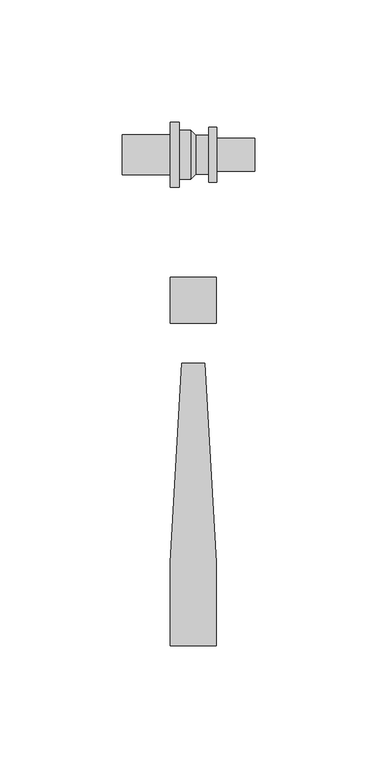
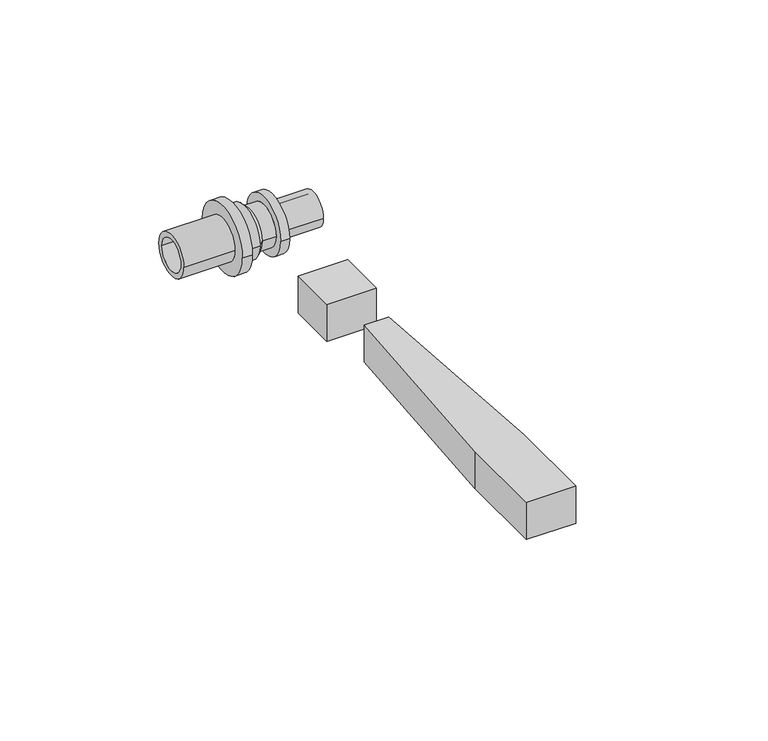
"""IFC4 building model written with IfcOpenShell, lengths in millimetres: pipe fitting geometry, RAUTITAN_Transition_LX : RTI LX Tr DN."""

from ifc_helpers import new_model, si_unit, frame, origin, origin_with_axes, place, context, project, spatial, polyline, circle_curve, outline, extrude, source, transform, mapped, element, save
from ifc_brep_helpers import plane_surface, cylinder_surface, revolved_surface, advanced_brep


def pipe_fitting_7819bb25(model_context):
    return source(origin(), model_context, "Body", "SolidModel", [
        advanced_brep(
        [(-29.05, 6.25, 0.0), (-29.05, -6.25, 0.0), (-0.65, -6.25, 0.0), (-0.65, 6.25, 0.0), (-1.0, 10.05, 0.0), (-1.0, -10.05, 0.0), (-5.75, -10.05, 0.0), (-5.75, 10.05, 0.0), (1.0, 8.05, 0.0), (1.0, -8.05, 0.0), (6.25, 8.05, 0.0), (6.25, -8.05, 0.0), (9.55, 11.25, 0.0), (9.55, -11.25, 0.0), (6.25, -11.25, 0.0), (6.25, 11.25, 0.0), (25.05, 6.75, 0.0), (25.05, -6.75, 0.0), (9.55, -6.75, 0.0), (9.55, 6.75, 0.0), (0.65, 4.95, 0.0), (0.65, -4.95, 0.0), (25.05, -4.95, 0.0), (25.05, 4.95, 0.0), (-5.75, 13.25, 0.0), (-5.75, -13.25, 0.0), (-9.55, 8.25, 0.0), (-9.55, -8.25, 0.0), (-29.05, -8.25, 0.0), (-29.05, 8.25, 0.0), (-9.55, -13.25, 0.0), (-9.55, 13.25, 0.0)],
        [
            (0, 1, circle_curve(frame((-29.05, 0.0, 0.0), z_axis=(-1.0, 0.0, 0.0), x_axis=(0.0, -1.0, 0.0)), 6.25)),
            (1, 2),
            (2, 3, circle_curve(frame((-0.65, 0.0, 0.0), z_axis=(1.0, 0.0, 0.0), x_axis=(0.0, -1.0, 0.0)), 6.25)),
            (3, 0),
            (4, 5, circle_curve(frame((-1.0, 0.0, 0.0), z_axis=(-1.0, 0.0, 0.0), x_axis=(0.0, -1.0, 0.0)), 10.05)),
            (5, 6),
            (6, 7, circle_curve(frame((-5.75, 0.0, 0.0), z_axis=(1.0, 0.0, 0.0), x_axis=(0.0, -1.0, 0.0)), 10.05)),
            (7, 4),
            (8, 9, circle_curve(frame((1.0, 0.0, 0.0), z_axis=(-1.0, 0.0, 0.0), x_axis=(0.0, -1.0, 0.0)), 8.05)),
            (9, 5),
            (4, 8),
            (10, 11, circle_curve(frame((6.25, 0.0, 0.0), z_axis=(-1.0, 0.0, 0.0), x_axis=(0.0, -1.0, 0.0)), 8.05)),
            (11, 9),
            (8, 10),
            (12, 13, circle_curve(frame((9.55, 0.0, 0.0), z_axis=(-1.0, 0.0, 0.0), x_axis=(0.0, -1.0, 0.0)), 11.25)),
            (13, 14),
            (14, 15, circle_curve(frame((6.25, 0.0, 0.0), z_axis=(1.0, 0.0, 0.0), x_axis=(0.0, -1.0, 0.0)), 11.25)),
            (15, 12),
            (16, 17, circle_curve(frame((25.05, 0.0, 0.0), z_axis=(-1.0, 0.0, 0.0), x_axis=(0.0, -1.0, 0.0)), 6.75)),
            (17, 18),
            (18, 19, circle_curve(frame((9.55, 0.0, 0.0), z_axis=(1.0, 0.0, 0.0), x_axis=(0.0, -1.0, 0.0)), 6.75)),
            (19, 16),
            (20, 21, circle_curve(frame((0.65, 0.0, 0.0), z_axis=(-1.0, 0.0, 0.0), x_axis=(0.0, -1.0, 0.0)), 4.95)),
            (21, 22),
            (22, 23, circle_curve(frame((25.05, 0.0, 0.0), z_axis=(1.0, 0.0, 0.0), x_axis=(0.0, -1.0, 0.0)), 4.95)),
            (23, 20),
            (2, 21),
            (20, 3),
            (1, 0, circle_curve(frame((-29.05, 0.0, 0.0), z_axis=(-1.0, 0.0, 0.0), x_axis=(0.0, 1.0, 0.0)), 6.25)),
            (3, 2, circle_curve(frame((-0.65, 0.0, 0.0), z_axis=(1.0, 0.0, 0.0), x_axis=(0.0, 1.0, 0.0)), 6.25)),
            (24, 25, circle_curve(frame((-5.75, 0.0, 0.0), z_axis=(1.0, 0.0, 0.0), x_axis=(0.0, 1.0, 0.0)), 13.25)),
            (25, 24, circle_curve(frame((-5.75, 0.0, 0.0), z_axis=(1.0, 0.0, 0.0), x_axis=(0.0, -1.0, 0.0)), 13.25)),
            (6, 7, circle_curve(frame((-5.75, 0.0, 0.0), z_axis=(-1.0, 0.0, 0.0), x_axis=(0.0, 1.0, 0.0)), 10.05)),
            (5, 4, circle_curve(frame((-1.0, 0.0, 0.0), z_axis=(-1.0, 0.0, 0.0), x_axis=(0.0, 1.0, 0.0)), 10.05)),
            (9, 8, circle_curve(frame((1.0, 0.0, 0.0), z_axis=(-1.0, 0.0, 0.0), x_axis=(0.0, 1.0, 0.0)), 8.05)),
            (11, 10, circle_curve(frame((6.25, 0.0, 0.0), z_axis=(-1.0, 0.0, 0.0), x_axis=(0.0, 1.0, 0.0)), 8.05)),
            (14, 15, circle_curve(frame((6.25, 0.0, 0.0), z_axis=(-1.0, 0.0, 0.0), x_axis=(0.0, 1.0, 0.0)), 11.25)),
            (13, 12, circle_curve(frame((9.55, 0.0, 0.0), z_axis=(-1.0, 0.0, 0.0), x_axis=(0.0, 1.0, 0.0)), 11.25)),
            (18, 19, circle_curve(frame((9.55, 0.0, 0.0), z_axis=(-1.0, 0.0, 0.0), x_axis=(0.0, 1.0, 0.0)), 6.75)),
            (17, 16, circle_curve(frame((25.05, 0.0, 0.0), z_axis=(-1.0, 0.0, 0.0), x_axis=(0.0, 1.0, 0.0)), 6.75)),
            (22, 23, circle_curve(frame((25.05, 0.0, 0.0), z_axis=(-1.0, 0.0, 0.0), x_axis=(0.0, 1.0, 0.0)), 4.95)),
            (21, 20, circle_curve(frame((0.65, 0.0, 0.0), z_axis=(-1.0, 0.0, 0.0), x_axis=(0.0, 1.0, 0.0)), 4.95)),
            (26, 27, circle_curve(frame((-9.55, 0.0, 0.0), z_axis=(-1.0, 0.0, 0.0), x_axis=(0.0, -1.0, 0.0)), 8.25)),
            (27, 28),
            (28, 29, circle_curve(frame((-29.05, 0.0, 0.0), z_axis=(1.0, 0.0, 0.0), x_axis=(0.0, -1.0, 0.0)), 8.25)),
            (29, 26),
            (25, 30),
            (30, 31, circle_curve(frame((-9.55, 0.0, 0.0), z_axis=(1.0, 0.0, 0.0), x_axis=(0.0, -1.0, 0.0)), 13.25)),
            (31, 24),
            (28, 29, circle_curve(frame((-29.05, 0.0, 0.0), z_axis=(-1.0, 0.0, 0.0), x_axis=(0.0, 1.0, 0.0)), 8.25)),
            (27, 26, circle_curve(frame((-9.55, 0.0, 0.0), z_axis=(-1.0, 0.0, 0.0), x_axis=(0.0, 1.0, 0.0)), 8.25)),
            (30, 31, circle_curve(frame((-9.55, 0.0, 0.0), z_axis=(-1.0, 0.0, 0.0), x_axis=(0.0, 1.0, 0.0)), 13.25)),
        ],
        [
            revolved_surface(polyline([(-0.65, -6.25, 0.0), (-29.05, -6.25, 0.0)]), (0.0, 0.0, 0.0), (1.0, 0.0, 0.0)),
            cylinder_surface(frame((0.0, 0.0, 0.0), z_axis=(1.0, 0.0, 0.0), x_axis=(0.0, -1.0, 0.0)), 10.05),
            revolved_surface(polyline([(-1.0, -10.05, 0.0), (1.0, -8.05, 0.0)]), (0.0, 0.0, 0.0), (1.0, 0.0, 0.0)),
            cylinder_surface(frame((0.0, 0.0, 0.0), z_axis=(1.0, 0.0, 0.0), x_axis=(0.0, -1.0, 0.0)), 8.05),
            cylinder_surface(frame((0.0, 0.0, 0.0), z_axis=(1.0, 0.0, 0.0), x_axis=(0.0, -1.0, 0.0)), 11.25),
            cylinder_surface(frame((0.0, 0.0, 0.0), z_axis=(1.0, 0.0, 0.0), x_axis=(0.0, -1.0, 0.0)), 6.75),
            revolved_surface(polyline([(25.05, -4.95, 0.0), (0.65, -4.95, 0.0)]), (0.0, 0.0, 0.0), (1.0, 0.0, 0.0)),
            revolved_surface(polyline([(0.65, -4.95, 0.0), (-0.65, -6.25, 0.0)]), (0.0, 0.0, 0.0), (1.0, 0.0, 0.0)),
            revolved_surface(polyline([(-0.65, 6.25, 0.0), (-29.05, 6.25, 0.0)]), (0.0, 0.0, 0.0), (1.0, 0.0, 0.0)),
            plane_surface(frame((-5.75, 0.0, 0.0), z_axis=(1.0, 0.0, 0.0), x_axis=(0.0, 1.0, 0.0))),
            cylinder_surface(frame((0.0, 0.0, 0.0), z_axis=(1.0, 0.0, 0.0), x_axis=(0.0, 1.0, 0.0)), 10.05),
            revolved_surface(polyline([(-1.0, 10.05, 0.0), (1.0, 8.05, 0.0)]), (0.0, 0.0, 0.0), (1.0, 0.0, 0.0)),
            cylinder_surface(frame((0.0, 0.0, 0.0), z_axis=(1.0, 0.0, 0.0), x_axis=(0.0, 1.0, 0.0)), 8.05),
            plane_surface(frame((6.25, 0.0, 0.0), z_axis=(-1.0, 0.0, 0.0), x_axis=(0.0, 1.0, 0.0))),
            cylinder_surface(frame((0.0, 0.0, 0.0), z_axis=(1.0, 0.0, 0.0), x_axis=(0.0, 1.0, 0.0)), 11.25),
            plane_surface(frame((9.55, 0.0, 0.0), z_axis=(1.0, 0.0, 0.0), x_axis=(0.0, 1.0, 0.0))),
            cylinder_surface(frame((0.0, 0.0, 0.0), z_axis=(1.0, 0.0, 0.0), x_axis=(0.0, 1.0, 0.0)), 6.75),
            plane_surface(frame((25.05, 0.0, 0.0), z_axis=(1.0, 0.0, 0.0), x_axis=(0.0, 1.0, 0.0))),
            revolved_surface(polyline([(25.05, 4.95, 0.0), (0.65, 4.95, 0.0)]), (0.0, 0.0, 0.0), (1.0, 0.0, 0.0)),
            revolved_surface(polyline([(0.65, 4.95, 0.0), (-0.65, 6.25, 0.0)]), (0.0, 0.0, 0.0), (1.0, 0.0, 0.0)),
            cylinder_surface(frame((0.0, 0.0, 0.0), z_axis=(1.0, 0.0, 0.0), x_axis=(0.0, -1.0, 0.0)), 8.25),
            cylinder_surface(frame((0.0, 0.0, 0.0), z_axis=(1.0, 0.0, 0.0), x_axis=(0.0, -1.0, 0.0)), 13.25),
            plane_surface(frame((-29.05, 0.0, 0.0), z_axis=(-1.0, 0.0, 0.0), x_axis=(0.0, 1.0, 0.0))),
            cylinder_surface(frame((0.0, 0.0, 0.0), z_axis=(1.0, 0.0, 0.0), x_axis=(0.0, 1.0, 0.0)), 8.25),
            plane_surface(frame((-9.55, 0.0, 0.0), z_axis=(-1.0, 0.0, 0.0), x_axis=(0.0, 1.0, 0.0))),
            cylinder_surface(frame((0.0, 0.0, 0.0), z_axis=(1.0, 0.0, 0.0), x_axis=(0.0, 1.0, 0.0)), 13.25),
        ],
        [
            (0, [[1, 2, 3, 4]]),
            (1, [[5, 6, 7, 8]]),
            (2, [[9, 10, -5, 11]]),
            (3, [[12, 13, -9, 14]]),
            (4, [[15, 16, 17, 18]]),
            (5, [[19, 20, 21, 22]]),
            (6, [[23, 24, 25, 26]]),
            (7, [[-3, 27, -23, 28]]),
            (8, [[29, -4, 30, -2]]),
            (9, [[31, 32], [33, -7]]),
            (10, [[34, -8, -33, -6]]),
            (11, [[35, -11, -34, -10]]),
            (12, [[36, -14, -35, -13]]),
            (13, [[37, -17], [-36, -12]]),
            (14, [[38, -18, -37, -16]]),
            (15, [[-38, -15], [39, -21]]),
            (16, [[40, -22, -39, -20]]),
            (17, [[-40, -19], [41, -25]]),
            (18, [[42, -26, -41, -24]]),
            (19, [[-30, -28, -42, -27]]),
            (20, [[43, 44, 45, 46]]),
            (21, [[-32, 47, 48, 49]]),
            (22, [[50, -45], [-29, -1]]),
            (23, [[51, -46, -50, -44]]),
            (24, [[52, -48], [-51, -43]]),
            (25, [[-31, -49, -52, -47]]),
        ],
    ),
        extrude(outline(polyline([(4.7088895, -85.3166715), (9.4177791, -166.6553807), (9.4177791, -200.6844652), (-9.4177791, -200.6844652), (-9.4177791, -166.6553807), (-4.7088895, -85.3166715), (4.7088895, -85.3166715)])), origin_with_axes(), (0.0, 0.0, 1.0), 15.0),
        extrude(outline(polyline([(9.4177791, -50.0), (9.4177791, -68.8355582), (-9.4177791, -68.8355582), (-9.4177791, -50.0), (9.4177791, -50.0)])), origin_with_axes(), (0.0, 0.0, 1.0), 15.0),
    ])


if __name__ == "__main__":
    model = new_model("IFC4")
    model_context = context("Model", 3, world=origin())
    ifc_project = project(units=[si_unit("LENGTHUNIT", "METRE", prefix="MILLI")], contexts=[model_context])
    site = spatial("IfcSite", under=ifc_project)
    building = spatial("IfcBuilding", under=site)
    placement = place(None, origin())
    pipe_fitting_shape = pipe_fitting_7819bb25(model_context)
    element("IfcPipeFitting", 1, ObjectType="RAUTITAN_Transition_LX : RTI LX Tr DN", at=placement, inside=building, context=model_context, shape_type="MappedRepresentation", body=[
        mapped(pipe_fitting_shape, transform((0.0, 0.0, 0.0), x_axis=(1.0, 0.0, 0.0), y_axis=(0.0, 1.0, 0.0), z_axis=(0.0, 0.0, 1.0))),
    ])
    save(model, "model.ifc")
